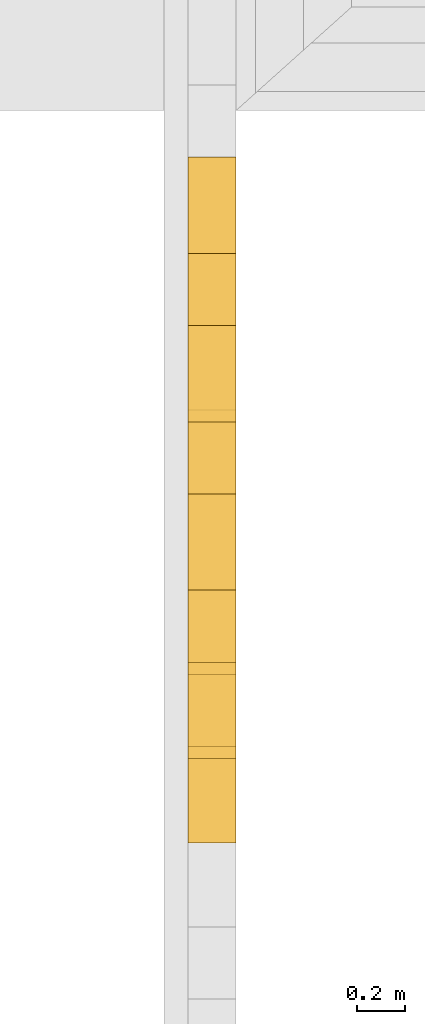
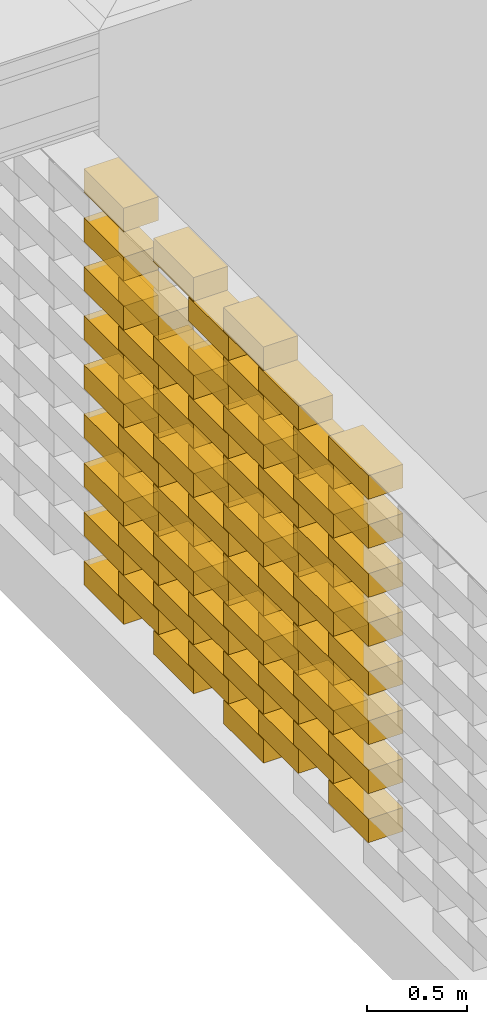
# One storey, part 46 of 62: 76 railings.
"""IFC2X3 building model written with IfcOpenShell, lengths in millimetres."""

from ifc_helpers import new_model, entity, si_unit, converted_unit, derived_unit, money_unit, direction, frame, origin_with_axes, place, context, subcontext, project, spatial, polyline, outline, extrude, material, type_object, element, save


model = new_model("IFC2X3")

# Units and contexts
model_context = context("Model", 3, precision=0.01, world=origin_with_axes(), true_north=direction((0.0, 1.0)))
body_context = subcontext(model_context, "Body", "Model", "MODEL_VIEW")
ifc_project = project(units=[si_unit("LENGTHUNIT", "METRE", prefix="MILLI"), si_unit("AREAUNIT", "SQUARE_METRE"), si_unit("VOLUMEUNIT", "CUBIC_METRE"), converted_unit("PLANEANGLEUNIT", "DEGREE", entity("IfcPlaneAngleMeasure", 0.0174532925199), si_unit("PLANEANGLEUNIT", "RADIAN"), dimensions=[0, 0, 0, 0, 0, 0, 0]), si_unit("SOLIDANGLEUNIT", "STERADIAN"), money_unit("EUR"), converted_unit("TIMEUNIT", "Year", entity("IfcTimeMeasure", 31556926.0), si_unit("TIMEUNIT", "SECOND"), dimensions=[0, 0, 1, 0, 0, 0, 0]), si_unit("MASSUNIT", "GRAM", prefix="KILO"), si_unit("THERMODYNAMICTEMPERATUREUNIT", "DEGREE_CELSIUS"), si_unit("LUMINOUSINTENSITYUNIT", "LUMEN"), si_unit("ENERGYUNIT", "JOULE", prefix="MEGA"), derived_unit("THERMALCONDUCTANCEUNIT", [(si_unit("POWERUNIT", "WATT"), 1), (si_unit("LENGTHUNIT", "METRE"), -1), (si_unit("THERMODYNAMICTEMPERATUREUNIT", "KELVIN"), -1)]), derived_unit("SPECIFICHEATCAPACITYUNIT", [(si_unit("ENERGYUNIT", "JOULE"), 1), (si_unit("MASSUNIT", "GRAM", prefix="KILO"), -1), (si_unit("THERMODYNAMICTEMPERATUREUNIT", "KELVIN"), -1)]), derived_unit("MASSDENSITYUNIT", [(si_unit("MASSUNIT", "GRAM", prefix="KILO"), 1), (si_unit("VOLUMEUNIT", "CUBIC_METRE"), -1)])], contexts=[model_context])

# Site, building, storey
site_placement = place(None, origin_with_axes())
site = spatial("IfcSite", under=ifc_project, at=site_placement, Name="KIRDE 14, ELVA", CompositionType="ELEMENT")
building_placement = place(site_placement, origin_with_axes())
building = spatial("IfcBuilding", under=site, at=building_placement, Name="PPA ja Päästeameti ühishoone", CompositionType="ELEMENT")
storey_placement = place(building_placement, origin_with_axes())
storey = spatial("IfcBuildingStorey", under=building, at=storey_placement, Name="Esimene korrus", CompositionType="ELEMENT", Elevation=0.0)

# Railings
ifc_material = material(Name="Air Space")
railing_type = type_object("IfcRailingType", Name="Air Space 200", PredefinedType="NOTDEFINED")
railing_1_placement = place(storey_placement, frame((620.000149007, -1323.83984124, 2800.0), z_axis=(0.0, 0.0, 1.0), x_axis=(1.45519152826e-10, -1.0, 0.0)))
element("IfcRailing", 1, at=railing_1_placement, inside=storey, type_object=railing_type, material=ifc_material, Name="plokk", PredefinedType="NOTDEFINED", context=body_context, shape_type="SweptSolid", body=[
    extrude(outline(polyline([(0.0, 0.0), (399.99999851, 0.0), (399.99999851, 200.0), (0.0, 200.0), (0.0, 0.0)])), origin_with_axes(), (0.0, 0.0, 1.0), 145.0),
])
railing_2_placement = place(storey_placement, frame((620.000149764, -2023.8398405, 2800.0), z_axis=(0.0, 0.0, 1.0), x_axis=(1.45519152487e-10, -1.0, 0.0)))
element("IfcRailing", 2, at=railing_2_placement, inside=storey, type_object=railing_type, material=ifc_material, Name="plokk", PredefinedType="NOTDEFINED", context=body_context, shape_type="SweptSolid", body=[
    extrude(outline(polyline([(0.0, 0.0), (399.999999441, 0.0), (399.999999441, 200.0), (0.0, 200.0), (0.0, 0.0)])), origin_with_axes(), (0.0, 0.0, 1.0), 145.0),
])
for number, where, z_axis, x_axis in (
    (3, (620.000149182, -623.839839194, 2800.0), (0.0, 0.0, 1.0), (8.73114912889e-10, -1.0, 0.0)),
    (4, (620.000149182, -623.839839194, 400.0), (0.0, 0.0, 1.0), (8.73114912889e-10, -1.0, 0.0)),
):
    element("IfcRailing", number, at=place(storey_placement, frame(where, z_axis=z_axis, x_axis=x_axis)), inside=storey, type_object=railing_type, material=ifc_material, Name="plokk", PredefinedType="NOTDEFINED", context=body_context, shape_type="SweptSolid", body=[
        extrude(outline(polyline([(0.0, 0.0), (400.000000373, 0.0), (400.000000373, 200.0), (0.0, 200.0), (0.0, 0.0)])), origin_with_axes(), (0.0, 0.0, 1.0), 145.0),
    ])
railing_3_placement = place(storey_placement, frame((620.000149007, -1323.83984124, 400.0), z_axis=(0.0, 0.0, 1.0), x_axis=(1.45519152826e-10, -1.0, 0.0)))
element("IfcRailing", 5, at=railing_3_placement, inside=storey, type_object=railing_type, material=ifc_material, Name="plokk", PredefinedType="NOTDEFINED", context=body_context, shape_type="SweptSolid", body=[
    extrude(outline(polyline([(0.0, 0.0), (399.99999851, 0.0), (399.99999851, 200.0), (0.0, 200.0), (0.0, 0.0)])), origin_with_axes(), (0.0, 0.0, 1.0), 145.0),
])
railing_4_placement = place(storey_placement, frame((620.000149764, -2023.8398405, 400.0), z_axis=(0.0, 0.0, 1.0), x_axis=(1.45519152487e-10, -1.0, 0.0)))
element("IfcRailing", 6, at=railing_4_placement, inside=storey, type_object=railing_type, material=ifc_material, Name="plokk", PredefinedType="NOTDEFINED", context=body_context, shape_type="SweptSolid", body=[
    extrude(outline(polyline([(0.0, 0.0), (399.999999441, 0.0), (399.999999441, 200.0), (0.0, 200.0), (0.0, 0.0)])), origin_with_axes(), (0.0, 0.0, 1.0), 145.0),
])
railing_5_placement = place(storey_placement, frame((620.000149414, -973.839839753, 550.0), z_axis=(0.0, 0.0, 1.0), x_axis=(-8.73114912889e-10, -1.0, 0.0)))
element("IfcRailing", 7, at=railing_5_placement, inside=storey, type_object=railing_type, material=ifc_material, Name="plokk", PredefinedType="NOTDEFINED", context=body_context, shape_type="SweptSolid", body=[
    extrude(outline(polyline([(0.0, 0.0), (400.000000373, 0.0), (400.000000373, 200.0), (0.0, 200.0), (0.0, 0.0)])), origin_with_axes(), (0.0, 0.0, 1.0), 145.0),
])
for number, where, z_axis, x_axis in (
    (8, (620.000149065, -1673.83983994, 550.0), (0.0, 0.0, 1.0), (1.45519151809e-09, -1.0, 0.0)),
    (9, (620.000149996, -2373.83983919, 550.0), (0.0, 0.0, 1.0), (-8.73114910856e-10, -1.0, 0.0)),
):
    element("IfcRailing", number, at=place(storey_placement, frame(where, z_axis=z_axis, x_axis=x_axis)), inside=storey, type_object=railing_type, material=ifc_material, Name="plokk", PredefinedType="NOTDEFINED", context=body_context, shape_type="SweptSolid", body=[
        extrude(outline(polyline([(0.0, 0.0), (400.000001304, 0.0), (400.000001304, 200.0), (0.0, 200.0), (0.0, 0.0)])), origin_with_axes(), (0.0, 0.0, 1.0), 145.0),
    ])
railing_6_placement = place(storey_placement, frame((620.000149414, -3073.83984031, 550.0), z_axis=(0.0, 0.0, 1.0), x_axis=(-5.82076609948e-10, -1.0, 0.0)))
element("IfcRailing", 10, at=railing_6_placement, inside=storey, type_object=railing_type, material=ifc_material, Name="plokk", PredefinedType="NOTDEFINED", context=body_context, shape_type="SweptSolid", body=[
    extrude(outline(polyline([(0.0, 0.0), (399.999999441, 0.0), (399.999999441, 200.0), (0.0, 200.0), (0.0, 0.0)])), origin_with_axes(), (0.0, 0.0, 1.0), 145.0),
])
railing_7_placement = place(storey_placement, frame((620.000149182, -623.839839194, 700.0), z_axis=(0.0, 0.0, 1.0), x_axis=(8.73114912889e-10, -1.0, 0.0)))
element("IfcRailing", 11, at=railing_7_placement, inside=storey, type_object=railing_type, material=ifc_material, Name="plokk", PredefinedType="NOTDEFINED", context=body_context, shape_type="SweptSolid", body=[
    extrude(outline(polyline([(0.0, 0.0), (400.000000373, 0.0), (400.000000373, 200.0), (0.0, 200.0), (0.0, 0.0)])), origin_with_axes(), (0.0, 0.0, 1.0), 145.0),
])
railing_8_placement = place(storey_placement, frame((620.000149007, -1323.83984124, 700.0), z_axis=(0.0, 0.0, 1.0), x_axis=(1.45519152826e-10, -1.0, 0.0)))
element("IfcRailing", 12, at=railing_8_placement, inside=storey, type_object=railing_type, material=ifc_material, Name="plokk", PredefinedType="NOTDEFINED", context=body_context, shape_type="SweptSolid", body=[
    extrude(outline(polyline([(0.0, 0.0), (399.99999851, 0.0), (399.99999851, 200.0), (0.0, 200.0), (0.0, 0.0)])), origin_with_axes(), (0.0, 0.0, 1.0), 145.0),
])
railing_9_placement = place(storey_placement, frame((620.000149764, -2023.8398405, 700.0), z_axis=(0.0, 0.0, 1.0), x_axis=(1.45519152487e-10, -1.0, 0.0)))
element("IfcRailing", 13, at=railing_9_placement, inside=storey, type_object=railing_type, material=ifc_material, Name="plokk", PredefinedType="NOTDEFINED", context=body_context, shape_type="SweptSolid", body=[
    extrude(outline(polyline([(0.0, 0.0), (399.999999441, 0.0), (399.999999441, 200.0), (0.0, 200.0), (0.0, 0.0)])), origin_with_axes(), (0.0, 0.0, 1.0), 145.0),
])
for number, where, z_axis, x_axis in (
    (14, (620.000149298, -2723.83983975, 700.0), (0.0, 0.0, 1.0), (1.45519152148e-09, -1.0, 0.0)),
    (15, (620.000149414, -973.839839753, 850.0), (0.0, 0.0, 1.0), (-8.73114912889e-10, -1.0, 0.0)),
):
    element("IfcRailing", number, at=place(storey_placement, frame(where, z_axis=z_axis, x_axis=x_axis)), inside=storey, type_object=railing_type, material=ifc_material, Name="plokk", PredefinedType="NOTDEFINED", context=body_context, shape_type="SweptSolid", body=[
        extrude(outline(polyline([(0.0, 0.0), (400.000000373, 0.0), (400.000000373, 200.0), (0.0, 200.0), (0.0, 0.0)])), origin_with_axes(), (0.0, 0.0, 1.0), 145.0),
    ])
for number, where, z_axis, x_axis in (
    (16, (620.000149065, -1673.83983994, 850.0), (0.0, 0.0, 1.0), (1.45519151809e-09, -1.0, 0.0)),
    (17, (620.000149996, -2373.83983919, 850.0), (0.0, 0.0, 1.0), (-8.73114910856e-10, -1.0, 0.0)),
):
    element("IfcRailing", number, at=place(storey_placement, frame(where, z_axis=z_axis, x_axis=x_axis)), inside=storey, type_object=railing_type, material=ifc_material, Name="plokk", PredefinedType="NOTDEFINED", context=body_context, shape_type="SweptSolid", body=[
        extrude(outline(polyline([(0.0, 0.0), (400.000001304, 0.0), (400.000001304, 200.0), (0.0, 200.0), (0.0, 0.0)])), origin_with_axes(), (0.0, 0.0, 1.0), 145.0),
    ])
railing_10_placement = place(storey_placement, frame((620.000149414, -3073.83984031, 850.0), z_axis=(0.0, 0.0, 1.0), x_axis=(-5.82076609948e-10, -1.0, 0.0)))
element("IfcRailing", 18, at=railing_10_placement, inside=storey, type_object=railing_type, material=ifc_material, Name="plokk", PredefinedType="NOTDEFINED", context=body_context, shape_type="SweptSolid", body=[
    extrude(outline(polyline([(0.0, 0.0), (399.999999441, 0.0), (399.999999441, 200.0), (0.0, 200.0), (0.0, 0.0)])), origin_with_axes(), (0.0, 0.0, 1.0), 145.0),
])
railing_11_placement = place(storey_placement, frame((620.000149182, -623.839839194, 1000.0), z_axis=(0.0, 0.0, 1.0), x_axis=(8.73114912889e-10, -1.0, 0.0)))
element("IfcRailing", 19, at=railing_11_placement, inside=storey, type_object=railing_type, material=ifc_material, Name="plokk", PredefinedType="NOTDEFINED", context=body_context, shape_type="SweptSolid", body=[
    extrude(outline(polyline([(0.0, 0.0), (400.000000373, 0.0), (400.000000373, 200.0), (0.0, 200.0), (0.0, 0.0)])), origin_with_axes(), (0.0, 0.0, 1.0), 145.0),
])
railing_12_placement = place(storey_placement, frame((620.000149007, -1323.83984124, 1000.0), z_axis=(0.0, 0.0, 1.0), x_axis=(1.45519152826e-10, -1.0, 0.0)))
element("IfcRailing", 20, at=railing_12_placement, inside=storey, type_object=railing_type, material=ifc_material, Name="plokk", PredefinedType="NOTDEFINED", context=body_context, shape_type="SweptSolid", body=[
    extrude(outline(polyline([(0.0, 0.0), (399.99999851, 0.0), (399.99999851, 200.0), (0.0, 200.0), (0.0, 0.0)])), origin_with_axes(), (0.0, 0.0, 1.0), 145.0),
])
railing_13_placement = place(storey_placement, frame((620.000149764, -2023.8398405, 1000.0), z_axis=(0.0, 0.0, 1.0), x_axis=(1.45519152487e-10, -1.0, 0.0)))
element("IfcRailing", 21, at=railing_13_placement, inside=storey, type_object=railing_type, material=ifc_material, Name="plokk", PredefinedType="NOTDEFINED", context=body_context, shape_type="SweptSolid", body=[
    extrude(outline(polyline([(0.0, 0.0), (399.999999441, 0.0), (399.999999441, 200.0), (0.0, 200.0), (0.0, 0.0)])), origin_with_axes(), (0.0, 0.0, 1.0), 145.0),
])
for number, where, z_axis, x_axis in (
    (22, (620.000149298, -2723.83983975, 1000.0), (0.0, 0.0, 1.0), (1.45519152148e-09, -1.0, 0.0)),
    (23, (620.000149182, -623.839839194, 1000.0), (0.0, 0.0, 1.0), (8.73114912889e-10, -1.0, 0.0)),
):
    element("IfcRailing", number, at=place(storey_placement, frame(where, z_axis=z_axis, x_axis=x_axis)), inside=storey, type_object=railing_type, material=ifc_material, Name="plokk", PredefinedType="NOTDEFINED", context=body_context, shape_type="SweptSolid", body=[
        extrude(outline(polyline([(0.0, 0.0), (400.000000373, 0.0), (400.000000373, 200.0), (0.0, 200.0), (0.0, 0.0)])), origin_with_axes(), (0.0, 0.0, 1.0), 145.0),
    ])
railing_14_placement = place(storey_placement, frame((620.000149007, -1323.83984124, 1000.0), z_axis=(0.0, 0.0, 1.0), x_axis=(1.45519152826e-10, -1.0, 0.0)))
element("IfcRailing", 24, at=railing_14_placement, inside=storey, type_object=railing_type, material=ifc_material, Name="plokk", PredefinedType="NOTDEFINED", context=body_context, shape_type="SweptSolid", body=[
    extrude(outline(polyline([(0.0, 0.0), (399.99999851, 0.0), (399.99999851, 200.0), (0.0, 200.0), (0.0, 0.0)])), origin_with_axes(), (0.0, 0.0, 1.0), 145.0),
])
railing_15_placement = place(storey_placement, frame((620.000149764, -2023.8398405, 1000.0), z_axis=(0.0, 0.0, 1.0), x_axis=(1.45519152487e-10, -1.0, 0.0)))
element("IfcRailing", 25, at=railing_15_placement, inside=storey, type_object=railing_type, material=ifc_material, Name="plokk", PredefinedType="NOTDEFINED", context=body_context, shape_type="SweptSolid", body=[
    extrude(outline(polyline([(0.0, 0.0), (399.999999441, 0.0), (399.999999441, 200.0), (0.0, 200.0), (0.0, 0.0)])), origin_with_axes(), (0.0, 0.0, 1.0), 145.0),
])
for number, where, z_axis, x_axis in (
    (26, (620.000149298, -2723.83983975, 1000.0), (0.0, 0.0, 1.0), (1.45519152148e-09, -1.0, 0.0)),
    (27, (620.000149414, -973.839839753, 1150.0), (0.0, 0.0, 1.0), (-8.73114912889e-10, -1.0, 0.0)),
):
    element("IfcRailing", number, at=place(storey_placement, frame(where, z_axis=z_axis, x_axis=x_axis)), inside=storey, type_object=railing_type, material=ifc_material, Name="plokk", PredefinedType="NOTDEFINED", context=body_context, shape_type="SweptSolid", body=[
        extrude(outline(polyline([(0.0, 0.0), (400.000000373, 0.0), (400.000000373, 200.0), (0.0, 200.0), (0.0, 0.0)])), origin_with_axes(), (0.0, 0.0, 1.0), 145.0),
    ])
for number, where, z_axis, x_axis in (
    (28, (620.000149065, -1673.83983994, 1150.0), (0.0, 0.0, 1.0), (1.45519151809e-09, -1.0, 0.0)),
    (29, (620.000149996, -2373.83983919, 1150.0), (0.0, 0.0, 1.0), (-8.73114910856e-10, -1.0, 0.0)),
):
    element("IfcRailing", number, at=place(storey_placement, frame(where, z_axis=z_axis, x_axis=x_axis)), inside=storey, type_object=railing_type, material=ifc_material, Name="plokk", PredefinedType="NOTDEFINED", context=body_context, shape_type="SweptSolid", body=[
        extrude(outline(polyline([(0.0, 0.0), (400.000001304, 0.0), (400.000001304, 200.0), (0.0, 200.0), (0.0, 0.0)])), origin_with_axes(), (0.0, 0.0, 1.0), 145.0),
    ])
railing_16_placement = place(storey_placement, frame((620.000149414, -3073.83984031, 1150.0), z_axis=(0.0, 0.0, 1.0), x_axis=(-5.82076609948e-10, -1.0, 0.0)))
element("IfcRailing", 30, at=railing_16_placement, inside=storey, type_object=railing_type, material=ifc_material, Name="plokk", PredefinedType="NOTDEFINED", context=body_context, shape_type="SweptSolid", body=[
    extrude(outline(polyline([(0.0, 0.0), (399.999999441, 0.0), (399.999999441, 200.0), (0.0, 200.0), (0.0, 0.0)])), origin_with_axes(), (0.0, 0.0, 1.0), 145.0),
])
railing_17_placement = place(storey_placement, frame((620.000149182, -623.839839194, 1300.0), z_axis=(0.0, 0.0, 1.0), x_axis=(8.73114912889e-10, -1.0, 0.0)))
element("IfcRailing", 31, at=railing_17_placement, inside=storey, type_object=railing_type, material=ifc_material, Name="plokk", PredefinedType="NOTDEFINED", context=body_context, shape_type="SweptSolid", body=[
    extrude(outline(polyline([(0.0, 0.0), (400.000000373, 0.0), (400.000000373, 200.0), (0.0, 200.0), (0.0, 0.0)])), origin_with_axes(), (0.0, 0.0, 1.0), 145.0),
])
railing_18_placement = place(storey_placement, frame((620.000149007, -1323.83984124, 1300.0), z_axis=(0.0, 0.0, 1.0), x_axis=(1.45519152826e-10, -1.0, 0.0)))
element("IfcRailing", 32, at=railing_18_placement, inside=storey, type_object=railing_type, material=ifc_material, Name="plokk", PredefinedType="NOTDEFINED", context=body_context, shape_type="SweptSolid", body=[
    extrude(outline(polyline([(0.0, 0.0), (399.99999851, 0.0), (399.99999851, 200.0), (0.0, 200.0), (0.0, 0.0)])), origin_with_axes(), (0.0, 0.0, 1.0), 145.0),
])
railing_19_placement = place(storey_placement, frame((620.000149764, -2023.8398405, 1300.0), z_axis=(0.0, 0.0, 1.0), x_axis=(1.45519152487e-10, -1.0, 0.0)))
element("IfcRailing", 33, at=railing_19_placement, inside=storey, type_object=railing_type, material=ifc_material, Name="plokk", PredefinedType="NOTDEFINED", context=body_context, shape_type="SweptSolid", body=[
    extrude(outline(polyline([(0.0, 0.0), (399.999999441, 0.0), (399.999999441, 200.0), (0.0, 200.0), (0.0, 0.0)])), origin_with_axes(), (0.0, 0.0, 1.0), 145.0),
])
for number, where, z_axis, x_axis in (
    (34, (620.000149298, -2723.83983975, 1300.0), (0.0, 0.0, 1.0), (1.45519152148e-09, -1.0, 0.0)),
    (35, (620.000149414, -973.839839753, 1450.0), (0.0, 0.0, 1.0), (-8.73114912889e-10, -1.0, 0.0)),
):
    element("IfcRailing", number, at=place(storey_placement, frame(where, z_axis=z_axis, x_axis=x_axis)), inside=storey, type_object=railing_type, material=ifc_material, Name="plokk", PredefinedType="NOTDEFINED", context=body_context, shape_type="SweptSolid", body=[
        extrude(outline(polyline([(0.0, 0.0), (400.000000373, 0.0), (400.000000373, 200.0), (0.0, 200.0), (0.0, 0.0)])), origin_with_axes(), (0.0, 0.0, 1.0), 145.0),
    ])
for number, where, z_axis, x_axis in (
    (36, (620.000149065, -1673.83983994, 1450.0), (0.0, 0.0, 1.0), (1.45519151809e-09, -1.0, 0.0)),
    (37, (620.000149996, -2373.83983919, 1450.0), (0.0, 0.0, 1.0), (-8.73114910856e-10, -1.0, 0.0)),
):
    element("IfcRailing", number, at=place(storey_placement, frame(where, z_axis=z_axis, x_axis=x_axis)), inside=storey, type_object=railing_type, material=ifc_material, Name="plokk", PredefinedType="NOTDEFINED", context=body_context, shape_type="SweptSolid", body=[
        extrude(outline(polyline([(0.0, 0.0), (400.000001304, 0.0), (400.000001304, 200.0), (0.0, 200.0), (0.0, 0.0)])), origin_with_axes(), (0.0, 0.0, 1.0), 145.0),
    ])
railing_20_placement = place(storey_placement, frame((620.000149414, -3073.83984031, 1450.0), z_axis=(0.0, 0.0, 1.0), x_axis=(-5.82076609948e-10, -1.0, 0.0)))
element("IfcRailing", 38, at=railing_20_placement, inside=storey, type_object=railing_type, material=ifc_material, Name="plokk", PredefinedType="NOTDEFINED", context=body_context, shape_type="SweptSolid", body=[
    extrude(outline(polyline([(0.0, 0.0), (399.999999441, 0.0), (399.999999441, 200.0), (0.0, 200.0), (0.0, 0.0)])), origin_with_axes(), (0.0, 0.0, 1.0), 145.0),
])
railing_21_placement = place(storey_placement, frame((620.000149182, -623.839839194, 1600.0), z_axis=(0.0, 0.0, 1.0), x_axis=(8.73114912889e-10, -1.0, 0.0)))
element("IfcRailing", 39, at=railing_21_placement, inside=storey, type_object=railing_type, material=ifc_material, Name="plokk", PredefinedType="NOTDEFINED", context=body_context, shape_type="SweptSolid", body=[
    extrude(outline(polyline([(0.0, 0.0), (400.000000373, 0.0), (400.000000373, 200.0), (0.0, 200.0), (0.0, 0.0)])), origin_with_axes(), (0.0, 0.0, 1.0), 145.0),
])
railing_22_placement = place(storey_placement, frame((620.000149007, -1323.83984124, 1600.0), z_axis=(0.0, 0.0, 1.0), x_axis=(1.45519152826e-10, -1.0, 0.0)))
element("IfcRailing", 40, at=railing_22_placement, inside=storey, type_object=railing_type, material=ifc_material, Name="plokk", PredefinedType="NOTDEFINED", context=body_context, shape_type="SweptSolid", body=[
    extrude(outline(polyline([(0.0, 0.0), (399.99999851, 0.0), (399.99999851, 200.0), (0.0, 200.0), (0.0, 0.0)])), origin_with_axes(), (0.0, 0.0, 1.0), 145.0),
])
railing_23_placement = place(storey_placement, frame((620.000149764, -2023.8398405, 1600.0), z_axis=(0.0, 0.0, 1.0), x_axis=(1.45519152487e-10, -1.0, 0.0)))
element("IfcRailing", 41, at=railing_23_placement, inside=storey, type_object=railing_type, material=ifc_material, Name="plokk", PredefinedType="NOTDEFINED", context=body_context, shape_type="SweptSolid", body=[
    extrude(outline(polyline([(0.0, 0.0), (399.999999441, 0.0), (399.999999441, 200.0), (0.0, 200.0), (0.0, 0.0)])), origin_with_axes(), (0.0, 0.0, 1.0), 145.0),
])
for number, where, z_axis, x_axis in (
    (42, (620.000149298, -2723.83983975, 1600.0), (0.0, 0.0, 1.0), (1.45519152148e-09, -1.0, 0.0)),
    (43, (620.000149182, -623.839839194, 1600.0), (0.0, 0.0, 1.0), (8.73114912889e-10, -1.0, 0.0)),
):
    element("IfcRailing", number, at=place(storey_placement, frame(where, z_axis=z_axis, x_axis=x_axis)), inside=storey, type_object=railing_type, material=ifc_material, Name="plokk", PredefinedType="NOTDEFINED", context=body_context, shape_type="SweptSolid", body=[
        extrude(outline(polyline([(0.0, 0.0), (400.000000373, 0.0), (400.000000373, 200.0), (0.0, 200.0), (0.0, 0.0)])), origin_with_axes(), (0.0, 0.0, 1.0), 145.0),
    ])
railing_24_placement = place(storey_placement, frame((620.000149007, -1323.83984124, 1600.0), z_axis=(0.0, 0.0, 1.0), x_axis=(1.45519152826e-10, -1.0, 0.0)))
element("IfcRailing", 44, at=railing_24_placement, inside=storey, type_object=railing_type, material=ifc_material, Name="plokk", PredefinedType="NOTDEFINED", context=body_context, shape_type="SweptSolid", body=[
    extrude(outline(polyline([(0.0, 0.0), (399.99999851, 0.0), (399.99999851, 200.0), (0.0, 200.0), (0.0, 0.0)])), origin_with_axes(), (0.0, 0.0, 1.0), 145.0),
])
railing_25_placement = place(storey_placement, frame((620.000149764, -2023.8398405, 1600.0), z_axis=(0.0, 0.0, 1.0), x_axis=(1.45519152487e-10, -1.0, 0.0)))
element("IfcRailing", 45, at=railing_25_placement, inside=storey, type_object=railing_type, material=ifc_material, Name="plokk", PredefinedType="NOTDEFINED", context=body_context, shape_type="SweptSolid", body=[
    extrude(outline(polyline([(0.0, 0.0), (399.999999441, 0.0), (399.999999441, 200.0), (0.0, 200.0), (0.0, 0.0)])), origin_with_axes(), (0.0, 0.0, 1.0), 145.0),
])
for number, where, z_axis, x_axis in (
    (46, (620.000149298, -2723.83983975, 1600.0), (0.0, 0.0, 1.0), (1.45519152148e-09, -1.0, 0.0)),
    (47, (620.000149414, -973.839839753, 1750.0), (0.0, 0.0, 1.0), (-8.73114912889e-10, -1.0, 0.0)),
):
    element("IfcRailing", number, at=place(storey_placement, frame(where, z_axis=z_axis, x_axis=x_axis)), inside=storey, type_object=railing_type, material=ifc_material, Name="plokk", PredefinedType="NOTDEFINED", context=body_context, shape_type="SweptSolid", body=[
        extrude(outline(polyline([(0.0, 0.0), (400.000000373, 0.0), (400.000000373, 200.0), (0.0, 200.0), (0.0, 0.0)])), origin_with_axes(), (0.0, 0.0, 1.0), 145.0),
    ])
for number, where, z_axis, x_axis in (
    (48, (620.000149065, -1673.83983994, 1750.0), (0.0, 0.0, 1.0), (1.45519151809e-09, -1.0, 0.0)),
    (49, (620.000149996, -2373.83983919, 1750.0), (0.0, 0.0, 1.0), (-8.73114910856e-10, -1.0, 0.0)),
):
    element("IfcRailing", number, at=place(storey_placement, frame(where, z_axis=z_axis, x_axis=x_axis)), inside=storey, type_object=railing_type, material=ifc_material, Name="plokk", PredefinedType="NOTDEFINED", context=body_context, shape_type="SweptSolid", body=[
        extrude(outline(polyline([(0.0, 0.0), (400.000001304, 0.0), (400.000001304, 200.0), (0.0, 200.0), (0.0, 0.0)])), origin_with_axes(), (0.0, 0.0, 1.0), 145.0),
    ])
railing_26_placement = place(storey_placement, frame((620.000149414, -3073.83984031, 1750.0), z_axis=(0.0, 0.0, 1.0), x_axis=(-5.82076609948e-10, -1.0, 0.0)))
element("IfcRailing", 50, at=railing_26_placement, inside=storey, type_object=railing_type, material=ifc_material, Name="plokk", PredefinedType="NOTDEFINED", context=body_context, shape_type="SweptSolid", body=[
    extrude(outline(polyline([(0.0, 0.0), (399.999999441, 0.0), (399.999999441, 200.0), (0.0, 200.0), (0.0, 0.0)])), origin_with_axes(), (0.0, 0.0, 1.0), 145.0),
])
railing_27_placement = place(storey_placement, frame((620.000149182, -623.839839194, 1900.0), z_axis=(0.0, 0.0, 1.0), x_axis=(8.73114912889e-10, -1.0, 0.0)))
element("IfcRailing", 51, at=railing_27_placement, inside=storey, type_object=railing_type, material=ifc_material, Name="plokk", PredefinedType="NOTDEFINED", context=body_context, shape_type="SweptSolid", body=[
    extrude(outline(polyline([(0.0, 0.0), (400.000000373, 0.0), (400.000000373, 200.0), (0.0, 200.0), (0.0, 0.0)])), origin_with_axes(), (0.0, 0.0, 1.0), 145.0),
])
railing_28_placement = place(storey_placement, frame((620.000149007, -1323.83984124, 1900.0), z_axis=(0.0, 0.0, 1.0), x_axis=(1.45519152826e-10, -1.0, 0.0)))
element("IfcRailing", 52, at=railing_28_placement, inside=storey, type_object=railing_type, material=ifc_material, Name="plokk", PredefinedType="NOTDEFINED", context=body_context, shape_type="SweptSolid", body=[
    extrude(outline(polyline([(0.0, 0.0), (399.99999851, 0.0), (399.99999851, 200.0), (0.0, 200.0), (0.0, 0.0)])), origin_with_axes(), (0.0, 0.0, 1.0), 145.0),
])
railing_29_placement = place(storey_placement, frame((620.000149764, -2023.8398405, 1900.0), z_axis=(0.0, 0.0, 1.0), x_axis=(1.45519152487e-10, -1.0, 0.0)))
element("IfcRailing", 53, at=railing_29_placement, inside=storey, type_object=railing_type, material=ifc_material, Name="plokk", PredefinedType="NOTDEFINED", context=body_context, shape_type="SweptSolid", body=[
    extrude(outline(polyline([(0.0, 0.0), (399.999999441, 0.0), (399.999999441, 200.0), (0.0, 200.0), (0.0, 0.0)])), origin_with_axes(), (0.0, 0.0, 1.0), 145.0),
])
for number, where, z_axis, x_axis in (
    (54, (620.000149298, -2723.83983975, 1900.0), (0.0, 0.0, 1.0), (1.45519152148e-09, -1.0, 0.0)),
    (55, (620.000149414, -973.839839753, 2050.0), (0.0, 0.0, 1.0), (-8.73114912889e-10, -1.0, 0.0)),
):
    element("IfcRailing", number, at=place(storey_placement, frame(where, z_axis=z_axis, x_axis=x_axis)), inside=storey, type_object=railing_type, material=ifc_material, Name="plokk", PredefinedType="NOTDEFINED", context=body_context, shape_type="SweptSolid", body=[
        extrude(outline(polyline([(0.0, 0.0), (400.000000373, 0.0), (400.000000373, 200.0), (0.0, 200.0), (0.0, 0.0)])), origin_with_axes(), (0.0, 0.0, 1.0), 145.0),
    ])
for number, where, z_axis, x_axis in (
    (56, (620.000149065, -1673.83983994, 2050.0), (0.0, 0.0, 1.0), (1.45519151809e-09, -1.0, 0.0)),
    (57, (620.000149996, -2373.83983919, 2050.0), (0.0, 0.0, 1.0), (-8.73114910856e-10, -1.0, 0.0)),
):
    element("IfcRailing", number, at=place(storey_placement, frame(where, z_axis=z_axis, x_axis=x_axis)), inside=storey, type_object=railing_type, material=ifc_material, Name="plokk", PredefinedType="NOTDEFINED", context=body_context, shape_type="SweptSolid", body=[
        extrude(outline(polyline([(0.0, 0.0), (400.000001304, 0.0), (400.000001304, 200.0), (0.0, 200.0), (0.0, 0.0)])), origin_with_axes(), (0.0, 0.0, 1.0), 145.0),
    ])
railing_30_placement = place(storey_placement, frame((620.000149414, -3073.83984031, 2050.0), z_axis=(0.0, 0.0, 1.0), x_axis=(-5.82076609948e-10, -1.0, 0.0)))
element("IfcRailing", 58, at=railing_30_placement, inside=storey, type_object=railing_type, material=ifc_material, Name="plokk", PredefinedType="NOTDEFINED", context=body_context, shape_type="SweptSolid", body=[
    extrude(outline(polyline([(0.0, 0.0), (399.999999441, 0.0), (399.999999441, 200.0), (0.0, 200.0), (0.0, 0.0)])), origin_with_axes(), (0.0, 0.0, 1.0), 145.0),
])
railing_31_placement = place(storey_placement, frame((620.000149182, -623.839839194, 2200.0), z_axis=(0.0, 0.0, 1.0), x_axis=(8.73114912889e-10, -1.0, 0.0)))
element("IfcRailing", 59, at=railing_31_placement, inside=storey, type_object=railing_type, material=ifc_material, Name="plokk", PredefinedType="NOTDEFINED", context=body_context, shape_type="SweptSolid", body=[
    extrude(outline(polyline([(0.0, 0.0), (400.000000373, 0.0), (400.000000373, 200.0), (0.0, 200.0), (0.0, 0.0)])), origin_with_axes(), (0.0, 0.0, 1.0), 145.0),
])
railing_32_placement = place(storey_placement, frame((620.000149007, -1323.83984124, 2200.0), z_axis=(0.0, 0.0, 1.0), x_axis=(1.45519152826e-10, -1.0, 0.0)))
element("IfcRailing", 60, at=railing_32_placement, inside=storey, type_object=railing_type, material=ifc_material, Name="plokk", PredefinedType="NOTDEFINED", context=body_context, shape_type="SweptSolid", body=[
    extrude(outline(polyline([(0.0, 0.0), (399.99999851, 0.0), (399.99999851, 200.0), (0.0, 200.0), (0.0, 0.0)])), origin_with_axes(), (0.0, 0.0, 1.0), 145.0),
])
railing_33_placement = place(storey_placement, frame((620.000149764, -2023.8398405, 2200.0), z_axis=(0.0, 0.0, 1.0), x_axis=(1.45519152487e-10, -1.0, 0.0)))
element("IfcRailing", 61, at=railing_33_placement, inside=storey, type_object=railing_type, material=ifc_material, Name="plokk", PredefinedType="NOTDEFINED", context=body_context, shape_type="SweptSolid", body=[
    extrude(outline(polyline([(0.0, 0.0), (399.999999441, 0.0), (399.999999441, 200.0), (0.0, 200.0), (0.0, 0.0)])), origin_with_axes(), (0.0, 0.0, 1.0), 145.0),
])
for number, where, z_axis, x_axis in (
    (62, (620.000149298, -2723.83983975, 2200.0), (0.0, 0.0, 1.0), (1.45519152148e-09, -1.0, 0.0)),
    (63, (620.000149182, -623.839839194, 2200.0), (0.0, 0.0, 1.0), (8.73114912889e-10, -1.0, 0.0)),
):
    element("IfcRailing", number, at=place(storey_placement, frame(where, z_axis=z_axis, x_axis=x_axis)), inside=storey, type_object=railing_type, material=ifc_material, Name="plokk", PredefinedType="NOTDEFINED", context=body_context, shape_type="SweptSolid", body=[
        extrude(outline(polyline([(0.0, 0.0), (400.000000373, 0.0), (400.000000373, 200.0), (0.0, 200.0), (0.0, 0.0)])), origin_with_axes(), (0.0, 0.0, 1.0), 145.0),
    ])
railing_34_placement = place(storey_placement, frame((620.000149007, -1323.83984124, 2200.0), z_axis=(0.0, 0.0, 1.0), x_axis=(1.45519152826e-10, -1.0, 0.0)))
element("IfcRailing", 64, at=railing_34_placement, inside=storey, type_object=railing_type, material=ifc_material, Name="plokk", PredefinedType="NOTDEFINED", context=body_context, shape_type="SweptSolid", body=[
    extrude(outline(polyline([(0.0, 0.0), (399.99999851, 0.0), (399.99999851, 200.0), (0.0, 200.0), (0.0, 0.0)])), origin_with_axes(), (0.0, 0.0, 1.0), 145.0),
])
railing_35_placement = place(storey_placement, frame((620.000149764, -2023.8398405, 2200.0), z_axis=(0.0, 0.0, 1.0), x_axis=(1.45519152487e-10, -1.0, 0.0)))
element("IfcRailing", 65, at=railing_35_placement, inside=storey, type_object=railing_type, material=ifc_material, Name="plokk", PredefinedType="NOTDEFINED", context=body_context, shape_type="SweptSolid", body=[
    extrude(outline(polyline([(0.0, 0.0), (399.999999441, 0.0), (399.999999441, 200.0), (0.0, 200.0), (0.0, 0.0)])), origin_with_axes(), (0.0, 0.0, 1.0), 145.0),
])
for number, where, z_axis, x_axis in (
    (66, (620.000149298, -2723.83983975, 2200.0), (0.0, 0.0, 1.0), (1.45519152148e-09, -1.0, 0.0)),
    (67, (620.000149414, -973.839839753, 2350.0), (0.0, 0.0, 1.0), (-8.73114912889e-10, -1.0, 0.0)),
):
    element("IfcRailing", number, at=place(storey_placement, frame(where, z_axis=z_axis, x_axis=x_axis)), inside=storey, type_object=railing_type, material=ifc_material, Name="plokk", PredefinedType="NOTDEFINED", context=body_context, shape_type="SweptSolid", body=[
        extrude(outline(polyline([(0.0, 0.0), (400.000000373, 0.0), (400.000000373, 200.0), (0.0, 200.0), (0.0, 0.0)])), origin_with_axes(), (0.0, 0.0, 1.0), 145.0),
    ])
for number, where, z_axis, x_axis in (
    (68, (620.000149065, -1673.83983994, 2350.0), (0.0, 0.0, 1.0), (1.45519151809e-09, -1.0, 0.0)),
    (69, (620.000149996, -2373.83983919, 2350.0), (0.0, 0.0, 1.0), (-8.73114910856e-10, -1.0, 0.0)),
):
    element("IfcRailing", number, at=place(storey_placement, frame(where, z_axis=z_axis, x_axis=x_axis)), inside=storey, type_object=railing_type, material=ifc_material, Name="plokk", PredefinedType="NOTDEFINED", context=body_context, shape_type="SweptSolid", body=[
        extrude(outline(polyline([(0.0, 0.0), (400.000001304, 0.0), (400.000001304, 200.0), (0.0, 200.0), (0.0, 0.0)])), origin_with_axes(), (0.0, 0.0, 1.0), 145.0),
    ])
railing_36_placement = place(storey_placement, frame((620.000149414, -3073.83984031, 2350.0), z_axis=(0.0, 0.0, 1.0), x_axis=(-5.82076609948e-10, -1.0, 0.0)))
element("IfcRailing", 70, at=railing_36_placement, inside=storey, type_object=railing_type, material=ifc_material, Name="plokk", PredefinedType="NOTDEFINED", context=body_context, shape_type="SweptSolid", body=[
    extrude(outline(polyline([(0.0, 0.0), (399.999999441, 0.0), (399.999999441, 200.0), (0.0, 200.0), (0.0, 0.0)])), origin_with_axes(), (0.0, 0.0, 1.0), 145.0),
])
railing_37_placement = place(storey_placement, frame((620.000149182, -623.839839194, 2500.0), z_axis=(0.0, 0.0, 1.0), x_axis=(8.73114912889e-10, -1.0, 0.0)))
element("IfcRailing", 71, at=railing_37_placement, inside=storey, type_object=railing_type, material=ifc_material, Name="plokk", PredefinedType="NOTDEFINED", context=body_context, shape_type="SweptSolid", body=[
    extrude(outline(polyline([(0.0, 0.0), (400.000000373, 0.0), (400.000000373, 200.0), (0.0, 200.0), (0.0, 0.0)])), origin_with_axes(), (0.0, 0.0, 1.0), 145.0),
])
railing_38_placement = place(storey_placement, frame((620.000149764, -2023.8398405, 2500.0), z_axis=(0.0, 0.0, 1.0), x_axis=(1.45519152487e-10, -1.0, 0.0)))
element("IfcRailing", 72, at=railing_38_placement, inside=storey, type_object=railing_type, material=ifc_material, Name="plokk", PredefinedType="NOTDEFINED", context=body_context, shape_type="SweptSolid", body=[
    extrude(outline(polyline([(0.0, 0.0), (399.999999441, 0.0), (399.999999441, 200.0), (0.0, 200.0), (0.0, 0.0)])), origin_with_axes(), (0.0, 0.0, 1.0), 145.0),
])
railing_39_placement = place(storey_placement, frame((620.000149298, -2723.83983975, 2500.0), z_axis=(0.0, 0.0, 1.0), x_axis=(1.45519152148e-09, -1.0, 0.0)))
element("IfcRailing", 73, at=railing_39_placement, inside=storey, type_object=railing_type, material=ifc_material, Name="plokk", PredefinedType="NOTDEFINED", context=body_context, shape_type="SweptSolid", body=[
    extrude(outline(polyline([(0.0, 0.0), (400.000000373, 0.0), (400.000000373, 200.0), (0.0, 200.0), (0.0, 0.0)])), origin_with_axes(), (0.0, 0.0, 1.0), 145.0),
])
for number, where, z_axis, x_axis in (
    (74, (620.000149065, -1673.83983994, 2650.0), (0.0, 0.0, 1.0), (1.45519151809e-09, -1.0, 0.0)),
    (75, (620.000149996, -2373.83983919, 2650.0), (0.0, 0.0, 1.0), (-8.73114910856e-10, -1.0, 0.0)),
):
    element("IfcRailing", number, at=place(storey_placement, frame(where, z_axis=z_axis, x_axis=x_axis)), inside=storey, type_object=railing_type, material=ifc_material, Name="plokk", PredefinedType="NOTDEFINED", context=body_context, shape_type="SweptSolid", body=[
        extrude(outline(polyline([(0.0, 0.0), (400.000001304, 0.0), (400.000001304, 200.0), (0.0, 200.0), (0.0, 0.0)])), origin_with_axes(), (0.0, 0.0, 1.0), 145.0),
    ])
railing_40_placement = place(storey_placement, frame((620.000149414, -3073.83984031, 2650.0), z_axis=(0.0, 0.0, 1.0), x_axis=(-5.82076609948e-10, -1.0, 0.0)))
element("IfcRailing", 76, at=railing_40_placement, inside=storey, type_object=railing_type, material=ifc_material, Name="plokk", PredefinedType="NOTDEFINED", context=body_context, shape_type="SweptSolid", body=[
    extrude(outline(polyline([(0.0, 0.0), (399.999999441, 0.0), (399.999999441, 200.0), (0.0, 200.0), (0.0, 0.0)])), origin_with_axes(), (0.0, 0.0, 1.0), 145.0),
])

save(model, "model.ifc")
